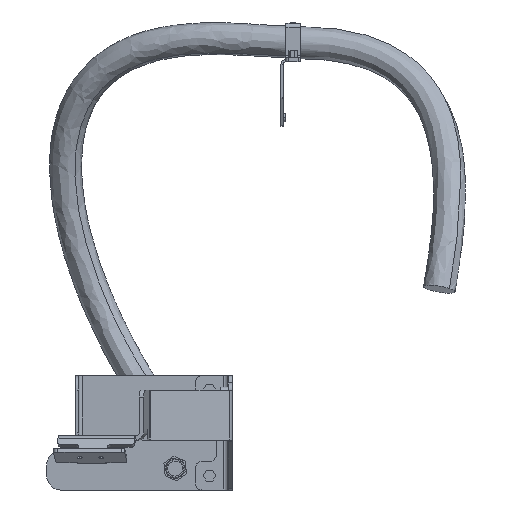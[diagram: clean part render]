
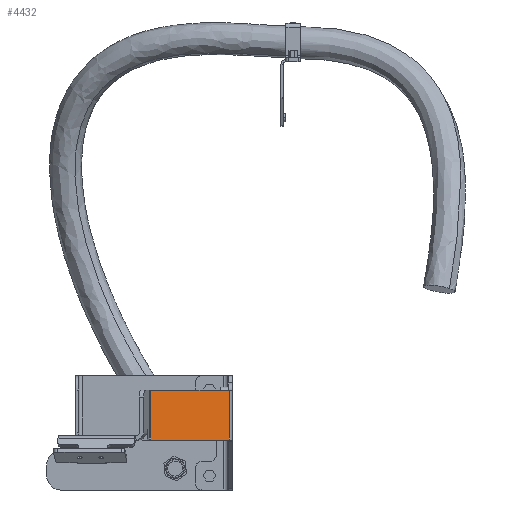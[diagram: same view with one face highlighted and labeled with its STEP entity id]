
A CAD part, left-side view. The second image highlights one B-rep face of the part: STEP entity #4432.
In plain terms, the highlighted planar face has unit normal (-0.766, -0.643, 0).
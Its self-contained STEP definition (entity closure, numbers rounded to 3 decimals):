
#1 = ORIENTED_EDGE ( 'NONE', *, *, #4851, .F. ) ;
#433 = VERTEX_POINT ( 'NONE', #5275 ) ;
#1442 = DIRECTION ( 'NONE',  ( 0., 0., -1. ) ) ;
#1913 = ORIENTED_EDGE ( 'NONE', *, *, #12033, .T. ) ;
#2386 = ORIENTED_EDGE ( 'NONE', *, *, #10298, .F. ) ;
#3266 = CARTESIAN_POINT ( 'NONE',  ( 90.879, 52.642, 1668.5 ) ) ;
#3954 = DIRECTION ( 'NONE',  ( 0.643, -0.766, 0. ) ) ;
#4014 = LINE ( 'NONE', #11419, #5232 ) ;
#4328 = DIRECTION ( 'NONE',  ( 0., 0., 1. ) ) ;
#4339 = VECTOR ( 'NONE', #4328, 1000. ) ;
#4372 = CARTESIAN_POINT ( 'NONE',  ( 183.394, -57.613, 1668.5 ) ) ;
#4432 = ADVANCED_FACE ( 'NONE', ( #13453 ), #8180, .T. ) ;
#4585 = DIRECTION ( 'NONE',  ( 0.643, -0.766, 0. ) ) ;
#4627 = ORIENTED_EDGE ( 'NONE', *, *, #13396, .T. ) ;
#4754 = VERTEX_POINT ( 'NONE', #7268 ) ;
#4851 = EDGE_CURVE ( 'NONE', #4754, #7100, #13607, .T. ) ;
#5057 = VECTOR ( 'NONE', #1442, 1000. ) ;
#5169 = AXIS2_PLACEMENT_3D ( 'NONE', #7650, #11915, #4585 ) ;
#5232 = VECTOR ( 'NONE', #6110, 1000. ) ;
#5275 = CARTESIAN_POINT ( 'NONE',  ( 183.394, -57.613, 1598.5 ) ) ;
#6110 = DIRECTION ( 'NONE',  ( -0.643, 0.766, 0. ) ) ;
#6692 = LINE ( 'NONE', #10871, #5057 ) ;
#7100 = VERTEX_POINT ( 'NONE', #3266 ) ;
#7268 = CARTESIAN_POINT ( 'NONE',  ( 90.879, 52.642, 1598.5 ) ) ;
#7650 = CARTESIAN_POINT ( 'NONE',  ( 217.839, -98.663, 1688.5 ) ) ;
#8180 = PLANE ( 'NONE',  #5169 ) ;
#8545 = CARTESIAN_POINT ( 'NONE',  ( 90.879, 52.642, 1598.5 ) ) ;
#10298 = EDGE_CURVE ( 'NONE', #10304, #433, #6692, .T. ) ;
#10304 = VERTEX_POINT ( 'NONE', #4372 ) ;
#10792 = VECTOR ( 'NONE', #3954, 1000. ) ;
#10871 = CARTESIAN_POINT ( 'NONE',  ( 183.394, -57.613, 1688.5 ) ) ;
#11150 = CARTESIAN_POINT ( 'NONE',  ( 217.839, -98.663, 1598.5 ) ) ;
#11419 = CARTESIAN_POINT ( 'NONE',  ( 217.839, -98.663, 1668.5 ) ) ;
#11915 = DIRECTION ( 'NONE',  ( -0.766, -0.643, 0. ) ) ;
#12033 = EDGE_CURVE ( 'NONE', #4754, #433, #12267, .T. ) ;
#12117 = EDGE_LOOP ( 'NONE', ( #4627, #1, #1913, #2386 ) ) ;
#12267 = LINE ( 'NONE', #11150, #10792 ) ;
#13396 = EDGE_CURVE ( 'NONE', #10304, #7100, #4014, .T. ) ;
#13453 = FACE_OUTER_BOUND ( 'NONE', #12117, .T. ) ;
#13607 = LINE ( 'NONE', #8545, #4339 ) ;
